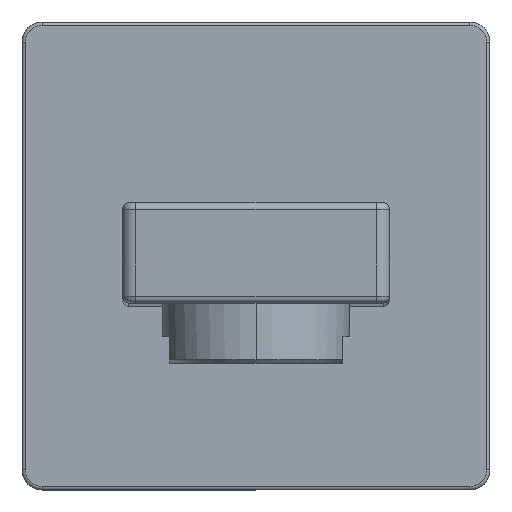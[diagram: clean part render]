
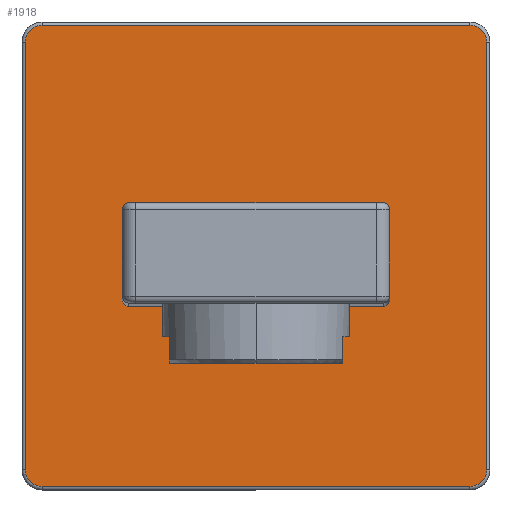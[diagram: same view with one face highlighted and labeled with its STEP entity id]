
A CAD part, top view. The second image highlights one B-rep face of the part: STEP entity #1918.
In plain terms, the highlighted planar face has unit normal (0, 0, 1).
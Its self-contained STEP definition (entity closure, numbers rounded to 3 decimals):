
#17 = DIRECTION ( 'NONE',  ( 0., 0., 1. ) ) ;
#52 = EDGE_CURVE ( 'NONE', #4422, #4841, #692, .T. ) ;
#137 = EDGE_CURVE ( 'NONE', #2897, #4307, #2946, .T. ) ;
#143 = CARTESIAN_POINT ( 'NONE',  ( -34.5, -32., 3. ) ) ;
#173 = CARTESIAN_POINT ( 'NONE',  ( -7.5, 0., 3. ) ) ;
#192 = AXIS2_PLACEMENT_3D ( 'NONE', #3508, #846, #2649 ) ;
#218 = AXIS2_PLACEMENT_3D ( 'NONE', #4460, #1846, #3631 ) ;
#220 = AXIS2_PLACEMENT_3D ( 'NONE', #5318, #847, #2730 ) ;
#264 = EDGE_LOOP ( 'NONE', ( #2808, #2528, #335, #3099, #3674, #507, #5190, #535 ) ) ;
#321 = CARTESIAN_POINT ( 'NONE',  ( 32., 34.5, 3. ) ) ;
#335 = ORIENTED_EDGE ( 'NONE', *, *, #2826, .T. ) ;
#463 = DIRECTION ( 'NONE',  ( 0., 1., 0. ) ) ;
#472 = PLANE ( 'NONE',  #858 ) ;
#507 = ORIENTED_EDGE ( 'NONE', *, *, #4867, .T. ) ;
#535 = ORIENTED_EDGE ( 'NONE', *, *, #2337, .T. ) ;
#548 = DIRECTION ( 'NONE',  ( 0., -1., 0. ) ) ;
#585 = VECTOR ( 'NONE', #463, 1000. ) ;
#619 = DIRECTION ( 'NONE',  ( 1., 0., 0. ) ) ;
#692 = CIRCLE ( 'NONE', #2005, 1.55 ) ;
#711 = CARTESIAN_POINT ( 'NONE',  ( -15.55, 0., 3. ) ) ;
#714 = CARTESIAN_POINT ( 'NONE',  ( 32., -34.5, 3. ) ) ;
#715 = CARTESIAN_POINT ( 'NONE',  ( 7.5, 0., 3. ) ) ;
#737 = VERTEX_POINT ( 'NONE', #711 ) ;
#829 = DIRECTION ( 'NONE',  ( 1., 0., 0. ) ) ;
#846 = DIRECTION ( 'NONE',  ( 0., 0., 1. ) ) ;
#847 = DIRECTION ( 'NONE',  ( 0., 0., 1. ) ) ;
#857 = DIRECTION ( 'NONE',  ( 0., 0., 1. ) ) ;
#858 = AXIS2_PLACEMENT_3D ( 'NONE', #3607, #4594, #3734 ) ;
#1044 = EDGE_CURVE ( 'NONE', #2141, #5149, #5459, .T. ) ;
#1210 = LINE ( 'NONE', #714, #4641 ) ;
#1243 = VERTEX_POINT ( 'NONE', #1584 ) ;
#1392 = CARTESIAN_POINT ( 'NONE',  ( -32., 34.5, 3. ) ) ;
#1485 = CARTESIAN_POINT ( 'NONE',  ( 0., 0., 3. ) ) ;
#1541 = EDGE_LOOP ( 'NONE', ( #3075, #2972 ) ) ;
#1584 = CARTESIAN_POINT ( 'NONE',  ( -12.45, 0., 3. ) ) ;
#1597 = VERTEX_POINT ( 'NONE', #5455 ) ;
#1633 = CIRCLE ( 'NONE', #4920, 1.55 ) ;
#1786 = DIRECTION ( 'NONE',  ( 0., 0., 1. ) ) ;
#1818 = CARTESIAN_POINT ( 'NONE',  ( -14., 0., 3. ) ) ;
#1846 = DIRECTION ( 'NONE',  ( 0., 0., 1. ) ) ;
#1871 = CIRCLE ( 'NONE', #192, 1.55 ) ;
#1873 = CARTESIAN_POINT ( 'NONE',  ( 34.5, 32., 3. ) ) ;
#1878 = FACE_BOUND ( 'NONE', #4788, .T. ) ;
#1918 = ADVANCED_FACE ( 'NONE', ( #3082, #1878, #2796, #4437 ), #472, .T. ) ;
#2005 = AXIS2_PLACEMENT_3D ( 'NONE', #4425, #2628, #5240 ) ;
#2049 = AXIS2_PLACEMENT_3D ( 'NONE', #5414, #17, #2366 ) ;
#2141 = VERTEX_POINT ( 'NONE', #3538 ) ;
#2236 = CIRCLE ( 'NONE', #2993, 7.5 ) ;
#2337 = EDGE_CURVE ( 'NONE', #5149, #4303, #5079, .T. ) ;
#2366 = DIRECTION ( 'NONE',  ( 1., 0., 0. ) ) ;
#2423 = VERTEX_POINT ( 'NONE', #715 ) ;
#2503 = CARTESIAN_POINT ( 'NONE',  ( 34.5, 32., 3. ) ) ;
#2528 = ORIENTED_EDGE ( 'NONE', *, *, #137, .T. ) ;
#2544 = AXIS2_PLACEMENT_3D ( 'NONE', #5584, #2859, #619 ) ;
#2552 = AXIS2_PLACEMENT_3D ( 'NONE', #3984, #4868, #829 ) ;
#2569 = VECTOR ( 'NONE', #548, 1000. ) ;
#2628 = DIRECTION ( 'NONE',  ( 0., 0., 1. ) ) ;
#2649 = DIRECTION ( 'NONE',  ( 1., 0., 0. ) ) ;
#2730 = DIRECTION ( 'NONE',  ( 1., 0., 0. ) ) ;
#2763 = CARTESIAN_POINT ( 'NONE',  ( -32., 34.5, 3. ) ) ;
#2782 = EDGE_CURVE ( 'NONE', #737, #1243, #5188, .T. ) ;
#2796 = FACE_BOUND ( 'NONE', #4313, .T. ) ;
#2808 = ORIENTED_EDGE ( 'NONE', *, *, #4084, .T. ) ;
#2826 = EDGE_CURVE ( 'NONE', #4307, #1597, #3689, .T. ) ;
#2835 = VERTEX_POINT ( 'NONE', #5015 ) ;
#2859 = DIRECTION ( 'NONE',  ( 0., 0., 1. ) ) ;
#2897 = VERTEX_POINT ( 'NONE', #1392 ) ;
#2946 = CIRCLE ( 'NONE', #4826, 2.5 ) ;
#2972 = ORIENTED_EDGE ( 'NONE', *, *, #3461, .F. ) ;
#2981 = VERTEX_POINT ( 'NONE', #173 ) ;
#2993 = AXIS2_PLACEMENT_3D ( 'NONE', #1485, #4580, #3283 ) ;
#3075 = ORIENTED_EDGE ( 'NONE', *, *, #4667, .F. ) ;
#3082 = FACE_OUTER_BOUND ( 'NONE', #264, .T. ) ;
#3099 = ORIENTED_EDGE ( 'NONE', *, *, #4233, .T. ) ;
#3105 = VECTOR ( 'NONE', #4005, 1000. ) ;
#3119 = DIRECTION ( 'NONE',  ( 1., 0., 0. ) ) ;
#3196 = EDGE_CURVE ( 'NONE', #2835, #5801, #1210, .T. ) ;
#3283 = DIRECTION ( 'NONE',  ( 1., 0., 0. ) ) ;
#3285 = CIRCLE ( 'NONE', #2544, 2.5 ) ;
#3337 = ORIENTED_EDGE ( 'NONE', *, *, #3406, .F. ) ;
#3406 = EDGE_CURVE ( 'NONE', #1243, #737, #1633, .T. ) ;
#3418 = DIRECTION ( 'NONE',  ( 1., 0., 0. ) ) ;
#3421 = ORIENTED_EDGE ( 'NONE', *, *, #4510, .F. ) ;
#3435 = CARTESIAN_POINT ( 'NONE',  ( -34.5, 32., 3. ) ) ;
#3461 = EDGE_CURVE ( 'NONE', #2981, #2423, #4930, .T. ) ;
#3508 = CARTESIAN_POINT ( 'NONE',  ( 14., 0., 3. ) ) ;
#3538 = CARTESIAN_POINT ( 'NONE',  ( 34.5, -32., 3. ) ) ;
#3604 = DIRECTION ( 'NONE',  ( 1., 0., 0. ) ) ;
#3607 = CARTESIAN_POINT ( 'NONE',  ( 0., 0., 3. ) ) ;
#3631 = DIRECTION ( 'NONE',  ( 1., 0., 0. ) ) ;
#3674 = ORIENTED_EDGE ( 'NONE', *, *, #3196, .T. ) ;
#3689 = LINE ( 'NONE', #143, #2569 ) ;
#3734 = DIRECTION ( 'NONE',  ( 1., 0., 0. ) ) ;
#3984 = CARTESIAN_POINT ( 'NONE',  ( 32., 32., 3. ) ) ;
#4005 = DIRECTION ( 'NONE',  ( -1., 0., 0. ) ) ;
#4084 = EDGE_CURVE ( 'NONE', #4303, #2897, #4893, .T. ) ;
#4233 = EDGE_CURVE ( 'NONE', #1597, #2835, #3285, .T. ) ;
#4303 = VERTEX_POINT ( 'NONE', #321 ) ;
#4307 = VERTEX_POINT ( 'NONE', #3435 ) ;
#4313 = EDGE_LOOP ( 'NONE', ( #4899, #3421 ) ) ;
#4422 = VERTEX_POINT ( 'NONE', #4520 ) ;
#4425 = CARTESIAN_POINT ( 'NONE',  ( 14., 0., 3. ) ) ;
#4437 = FACE_BOUND ( 'NONE', #1541, .T. ) ;
#4460 = CARTESIAN_POINT ( 'NONE',  ( 0., 0., 3. ) ) ;
#4510 = EDGE_CURVE ( 'NONE', #4841, #4422, #1871, .T. ) ;
#4520 = CARTESIAN_POINT ( 'NONE',  ( 15.55, 0., 3. ) ) ;
#4528 = CARTESIAN_POINT ( 'NONE',  ( -32., 32., 3. ) ) ;
#4580 = DIRECTION ( 'NONE',  ( 0., 0., 1. ) ) ;
#4594 = DIRECTION ( 'NONE',  ( 0., 0., 1. ) ) ;
#4641 = VECTOR ( 'NONE', #3418, 1000. ) ;
#4667 = EDGE_CURVE ( 'NONE', #2423, #2981, #2236, .T. ) ;
#4788 = EDGE_LOOP ( 'NONE', ( #3337, #5179 ) ) ;
#4826 = AXIS2_PLACEMENT_3D ( 'NONE', #4528, #1786, #3119 ) ;
#4841 = VERTEX_POINT ( 'NONE', #5282 ) ;
#4867 = EDGE_CURVE ( 'NONE', #5801, #2141, #5146, .T. ) ;
#4868 = DIRECTION ( 'NONE',  ( 0., 0., 1. ) ) ;
#4893 = LINE ( 'NONE', #2763, #3105 ) ;
#4899 = ORIENTED_EDGE ( 'NONE', *, *, #52, .F. ) ;
#4920 = AXIS2_PLACEMENT_3D ( 'NONE', #1818, #857, #3604 ) ;
#4930 = CIRCLE ( 'NONE', #218, 7.5 ) ;
#5015 = CARTESIAN_POINT ( 'NONE',  ( -32., -34.5, 3. ) ) ;
#5079 = CIRCLE ( 'NONE', #2552, 2.5 ) ;
#5146 = CIRCLE ( 'NONE', #2049, 2.5 ) ;
#5149 = VERTEX_POINT ( 'NONE', #2503 ) ;
#5156 = CARTESIAN_POINT ( 'NONE',  ( 32., -34.5, 3. ) ) ;
#5179 = ORIENTED_EDGE ( 'NONE', *, *, #2782, .F. ) ;
#5188 = CIRCLE ( 'NONE', #220, 1.55 ) ;
#5190 = ORIENTED_EDGE ( 'NONE', *, *, #1044, .T. ) ;
#5240 = DIRECTION ( 'NONE',  ( 1., 0., 0. ) ) ;
#5282 = CARTESIAN_POINT ( 'NONE',  ( 12.45, 0., 3. ) ) ;
#5318 = CARTESIAN_POINT ( 'NONE',  ( -14., 0., 3. ) ) ;
#5414 = CARTESIAN_POINT ( 'NONE',  ( 32., -32., 3. ) ) ;
#5455 = CARTESIAN_POINT ( 'NONE',  ( -34.5, -32., 3. ) ) ;
#5459 = LINE ( 'NONE', #1873, #585 ) ;
#5584 = CARTESIAN_POINT ( 'NONE',  ( -32., -32., 3. ) ) ;
#5801 = VERTEX_POINT ( 'NONE', #5156 ) ;
